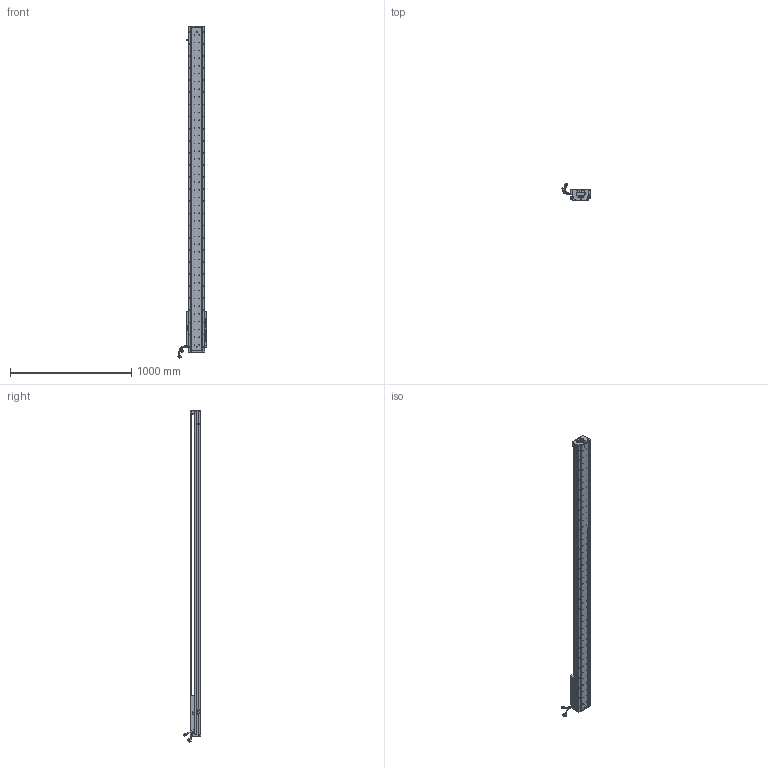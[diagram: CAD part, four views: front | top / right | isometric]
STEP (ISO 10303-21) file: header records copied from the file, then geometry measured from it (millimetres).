
FILE_DESCRIPTION (( 'STEP AP203' ), '1' );
FILE_NAME ('Z4-RY140D-1-L500-B-K.SLDASM_2300.step', '2021-05-17T08:19:18', ( '盈信电脑' ), ( '东莞市道滘镇水果街19号' ), 'SwSTEP 2.0', 'SolidWorks 2016', '' );
FILE_SCHEMA (( 'CONFIG_CONTROL_DESIGN' ));
Length unit declared in the file: millimetre
Products named in the file (36): SCREW-M1.6-3; SCALE; SCREW-M1.7; Z-140詩湍傷裔啣; LABEL-Part-1; COVER; Z-RY140感应器672光电感应片; 榋妏寠巭燃_暯_M2_2; Z4-RY140圉猾敕臏賑輸(21遴); 詩湍奻揤裔; 140雄赽晤鎢ん堤盄; SCREW-M1.6-2; Z4-RY140-L500詩湍100mm遵_2300; SCREW-M1.6; Z4-RY140D-1-L500-B-K.SLDASM_2300; HARNESS-Part-1; SEAL-Part-1; 140-Z-臏賑輸盄裔(21遴); SEAL; 覜茼ん672; 140蚥薯蝶輸; LABEL; Z4-RY140-L500直线电机模组底座_2300; PBU_SHEET; SCALE-Part-2; SCREW-M1.6-1; 080黍杅芛假蚾釱21遴; SCREW-M1.7-1; SHIELDPLATE; HOLDER0; SCALE-Part-1; HARNESS; 詩湍狟揤裔; COVER-Part-1; PSLH080_PSLF2; HARNESS-Part-2
Assembly tree (41 placements, depth 4):
  Z4-RY140D-1-L500-B-K.SLDASM_2300
    Z4-RY140-L500直线电机模组底座_2300
    Z-RY140感应器672光电感应片
    Z4-RY140圉猾敕臏賑輸(21遴)
    覜茼ん672  x3
    Z4-RY140-L500詩湍100mm遵_2300
    PSLH080_PSLF2
      SCALE
        SCALE-Part-1
        SCALE-Part-2
      HARNESS
        HARNESS-Part-1
        HARNESS-Part-2
      LABEL
        LABEL-Part-1
      COVER
        COVER-Part-1
      SEAL
        SEAL-Part-1
      榋妏寠巭燃_暯_M2_2
      SHIELDPLATE
      SCREW-M1.7
      SCREW-M1.7-1
      PBU_SHEET
      SCREW-M1.6
      SCREW-M1.6-1
      SCREW-M1.6-2
      SCREW-M1.6-3
      HOLDER0
    080黍杅芛假蚾釱21遴
    140-Z-臏賑輸盄裔(21遴)
    Z-140詩湍傷裔啣  x2
    詩湍狟揤裔  x2
    詩湍奻揤裔  x2
    140蚥薯蝶輸  x2
    140雄赽晤鎢ん堤盄
Bounding box: 239.79 x 143.88 x 2740.87 mm (x, y, z)
Volume: 8954908.8 mm3; surface area: 2313488.1 mm2
Topology: 36 solids, 36 shells, 4204 faces, 11450 edges, 7253 vertices
Faces by surface type: cylinder 2288, plane 1384, cone 410, torus 69, bspline 53
Entity records: 133854 total; most frequent: CARTESIAN_POINT 37983, ORIENTED_EDGE 19804, DIRECTION 18290, EDGE_CURVE 9902, AXIS2_PLACEMENT_3D 6808, VERTEX_POINT 6421, VECTOR 4674, LINE 4674
